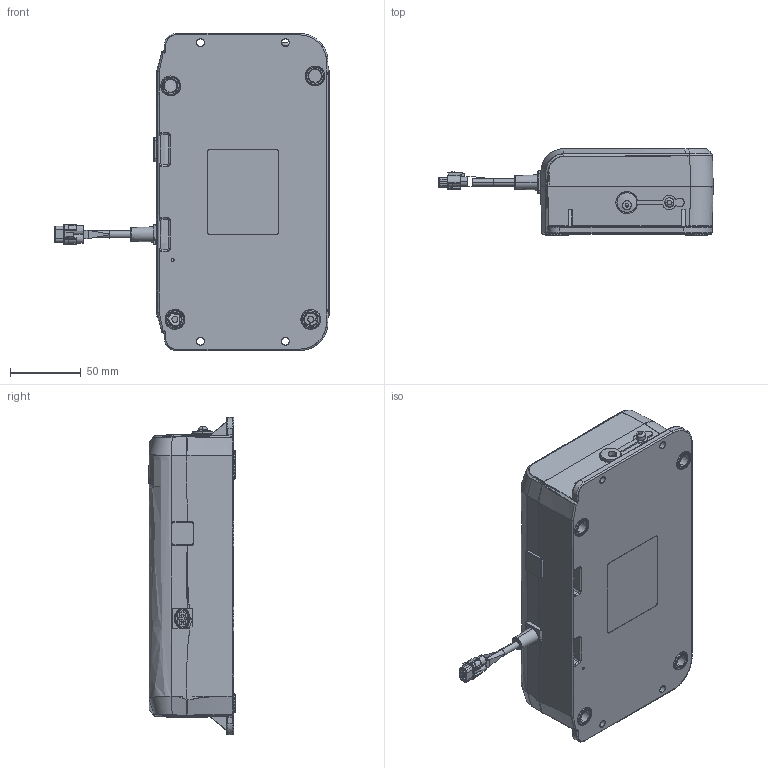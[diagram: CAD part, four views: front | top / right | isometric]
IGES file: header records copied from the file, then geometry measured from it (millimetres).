
Start section: SolidWorks IGES file using analytic representation for surfaces
Global section: file name: C:\Users\lynn\Desktop\btp2222222222222-L.IGS; native system: SolidWorks 2023; preprocessor: SolidWorks 2023; author: lynn; date: 240122.170349; units: millimetre
Bounding box: 193.91 x 61.25 x 224 mm (x, y, z)
Surface area: 97298.4 mm2 (no closed solid volume)
Topology: 0 solids, 0 shells, 502 faces, 5389 edges, 5376 vertices
Faces by surface type: bspline 335, revolution 167
